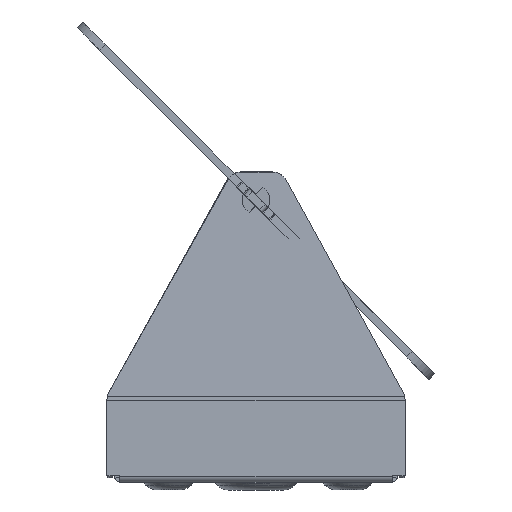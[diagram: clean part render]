
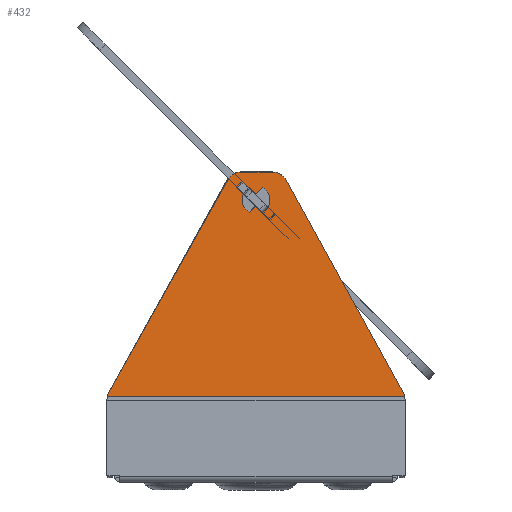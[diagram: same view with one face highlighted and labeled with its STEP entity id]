
A CAD part, left-side view. The second image highlights one B-rep face of the part: STEP entity #432.
In plain terms, the highlighted planar face has unit normal (-0.999, 0, 0.035).
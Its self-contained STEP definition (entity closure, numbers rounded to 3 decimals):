
#13 = CIRCLE ( 'NONE', #1061, 3.5 ) ;
#63 = CARTESIAN_POINT ( 'NONE',  ( 1.614, 34.25, 70.921 ) ) ;
#170 = CARTESIAN_POINT ( 'NONE',  ( 1.552, 33.896, 69.155 ) ) ;
#432 = ADVANCED_FACE ( 'NONE', ( #771, #4276 ), #1279, .F. ) ;
#446 = ORIENTED_EDGE ( 'NONE', *, *, #4341, .T. ) ;
#457 = CARTESIAN_POINT ( 'NONE',  ( 1.787, 41.395, 75.869 ) ) ;
#525 = EDGE_CURVE ( 'NONE', #3611, #5575, #3617, .T. ) ;
#563 = ORIENTED_EDGE ( 'NONE', *, *, #525, .T. ) ;
#564 = CARTESIAN_POINT ( 'NONE',  ( -0.808, 71.75, 1.564 ) ) ;
#565 = DIRECTION ( 'NONE',  ( -0.999, 0., 0.035 ) ) ;
#588 = DIRECTION ( 'NONE',  ( 0.03, -0.488, 0.873 ) ) ;
#656 = CARTESIAN_POINT ( 'NONE',  ( 1.676, 34.604, 72.688 ) ) ;
#771 = FACE_BOUND ( 'NONE', #1896, .T. ) ;
#774 = DIRECTION ( 'NONE',  ( -0.035, 0., -0.999 ) ) ;
#849 = DIRECTION ( 'NONE',  ( -0.999, 0., 0.035 ) ) ;
#891 = CARTESIAN_POINT ( 'NONE',  ( -0.11, 71.75, 21.551 ) ) ;
#913 = CIRCLE ( 'NONE', #930, 0.5 ) ;
#930 = AXIS2_PLACEMENT_3D ( 'NONE', #2140, #7038, #2857 ) ;
#1003 = EDGE_CURVE ( 'NONE', #8491, #7899, #1524, .T. ) ;
#1061 = AXIS2_PLACEMENT_3D ( 'NONE', #63, #4972, #774 ) ;
#1092 = CARTESIAN_POINT ( 'NONE',  ( -0.109, 71.75, 21.576 ) ) ;
#1149 = VERTEX_POINT ( 'NONE', #6423 ) ;
#1223 = CIRCLE ( 'NONE', #7684, 4. ) ;
#1263 = ORIENTED_EDGE ( 'NONE', *, *, #5884, .T. ) ;
#1279 = PLANE ( 'NONE',  #6003 ) ;
#1291 = DIRECTION ( 'NONE',  ( -0.035, 0., -0.999 ) ) ;
#1368 = DIRECTION ( 'NONE',  ( 0.999, 0., -0.035 ) ) ;
#1388 = DIRECTION ( 'NONE',  ( -0.025, 0.707, -0.707 ) ) ;
#1432 = EDGE_CURVE ( 'NONE', #5284, #6388, #4141, .T. ) ;
#1445 = AXIS2_PLACEMENT_3D ( 'NONE', #6977, #2802, #7697 ) ;
#1524 = CIRCLE ( 'NONE', #5187, 0.5 ) ;
#1543 = EDGE_CURVE ( 'NONE', #2870, #3090, #3477, .T. ) ;
#1654 = EDGE_CURVE ( 'NONE', #7899, #7659, #8220, .T. ) ;
#1794 = DIRECTION ( 'NONE',  ( -0.031, -0.482, -0.876 ) ) ;
#1842 = CIRCLE ( 'NONE', #6623, 4. ) ;
#1896 = EDGE_LOOP ( 'NONE', ( #5869, #6020, #2799, #3366, #5607, #2813, #7674, #563, #3799 ) ) ;
#1982 = DIRECTION ( 'NONE',  ( -0.999, 0., 0.035 ) ) ;
#2020 = DIRECTION ( 'NONE',  ( 0.025, -0.707, 0.707 ) ) ;
#2119 = EDGE_CURVE ( 'NONE', #7659, #5677, #4536, .T. ) ;
#2140 = CARTESIAN_POINT ( 'NONE',  ( 1.54, 34.25, 68.801 ) ) ;
#2151 = EDGE_CURVE ( 'NONE', #5677, #3375, #2459, .T. ) ;
#2158 = EDGE_CURVE ( 'NONE', #4329, #8491, #4083, .T. ) ;
#2225 = VECTOR ( 'NONE', #6972, 1000. ) ;
#2291 = VECTOR ( 'NONE', #6426, 1000. ) ;
#2459 = CIRCLE ( 'NONE', #5721, 3.5 ) ;
#2489 = ORIENTED_EDGE ( 'NONE', *, *, #4215, .T. ) ;
#2676 = VECTOR ( 'NONE', #2020, 1000. ) ;
#2798 = AXIS2_PLACEMENT_3D ( 'NONE', #4703, #1982, #6876 ) ;
#2799 = ORIENTED_EDGE ( 'NONE', *, *, #1654, .T. ) ;
#2802 = DIRECTION ( 'NONE',  ( -0.999, 0., 0.035 ) ) ;
#2813 = ORIENTED_EDGE ( 'NONE', *, *, #6119, .T. ) ;
#2857 = DIRECTION ( 'NONE',  ( 0.035, 0., 0.999 ) ) ;
#2870 = VERTEX_POINT ( 'NONE', #6713 ) ;
#2874 = LINE ( 'NONE', #1092, #6352 ) ;
#2917 = EDGE_LOOP ( 'NONE', ( #446, #6177, #7504, #4171, #2489, #7593, #1263, #9063 ) ) ;
#2957 = DIRECTION ( 'NONE',  ( -0.999, 0., 0.035 ) ) ;
#2991 = LINE ( 'NONE', #170, #8345 ) ;
#3026 = DIRECTION ( 'NONE',  ( -0.999, 0., 0.035 ) ) ;
#3048 = CARTESIAN_POINT ( 'NONE',  ( 1.721, 32.585, 73.998 ) ) ;
#3090 = VERTEX_POINT ( 'NONE', #457 ) ;
#3175 = DIRECTION ( 'NONE',  ( 0., -1., 0. ) ) ;
#3366 = ORIENTED_EDGE ( 'NONE', *, *, #2119, .T. ) ;
#3375 = VERTEX_POINT ( 'NONE', #8603 ) ;
#3392 = VECTOR ( 'NONE', #1388, 1000. ) ;
#3477 = LINE ( 'NONE', #891, #5126 ) ;
#3550 = CARTESIAN_POINT ( 'NONE',  ( 1.688, 34.25, 73.041 ) ) ;
#3611 = VERTEX_POINT ( 'NONE', #7999 ) ;
#3617 = LINE ( 'NONE', #7717, #3392 ) ;
#3799 = ORIENTED_EDGE ( 'NONE', *, *, #5420, .T. ) ;
#3878 = VERTEX_POINT ( 'NONE', #7567 ) ;
#3949 = CARTESIAN_POINT ( 'NONE',  ( 1.786, 26.61, 75.845 ) ) ;
#3962 = CARTESIAN_POINT ( 'NONE',  ( 1.676, 34.604, 72.688 ) ) ;
#3972 = CARTESIAN_POINT ( 'NONE',  ( 1.858, 37.902, 77.917 ) ) ;
#4000 = LINE ( 'NONE', #6690, #7528 ) ;
#4063 = DIRECTION ( 'NONE',  ( 0.999, 0., -0.035 ) ) ;
#4083 = LINE ( 'NONE', #656, #2225 ) ;
#4141 = LINE ( 'NONE', #7152, #2291 ) ;
#4171 = ORIENTED_EDGE ( 'NONE', *, *, #8426, .F. ) ;
#4215 = EDGE_CURVE ( 'NONE', #4653, #6388, #4593, .T. ) ;
#4276 = FACE_OUTER_BOUND ( 'NONE', #2917, .T. ) ;
#4329 = VERTEX_POINT ( 'NONE', #7786 ) ;
#4341 = EDGE_CURVE ( 'NONE', #2870, #3878, #1842, .T. ) ;
#4536 = LINE ( 'NONE', #6203, #2676 ) ;
#4593 = CIRCLE ( 'NONE', #1445, 4. ) ;
#4653 = VERTEX_POINT ( 'NONE', #3949 ) ;
#4703 = CARTESIAN_POINT ( 'NONE',  ( 1.688, 34.25, 73.041 ) ) ;
#4767 = CARTESIAN_POINT ( 'NONE',  ( 1.719, 37.902, 73.92 ) ) ;
#4835 = EDGE_CURVE ( 'NONE', #5459, #3611, #913, .T. ) ;
#4972 = DIRECTION ( 'NONE',  ( 0.999, 0., -0.035 ) ) ;
#5041 = CARTESIAN_POINT ( 'NONE',  ( -0.146, 0.75, 20.525 ) ) ;
#5072 = DIRECTION ( 'NONE',  ( 0.025, 0.707, 0.707 ) ) ;
#5126 = VECTOR ( 'NONE', #588, 1000. ) ;
#5187 = AXIS2_PLACEMENT_3D ( 'NONE', #3550, #3026, #1291 ) ;
#5284 = VERTEX_POINT ( 'NONE', #3972 ) ;
#5393 = CARTESIAN_POINT ( 'NONE',  ( 1.671, 34.25, 72.542 ) ) ;
#5420 = EDGE_CURVE ( 'NONE', #5575, #4329, #13, .T. ) ;
#5459 = VERTEX_POINT ( 'NONE', #7126 ) ;
#5462 = VERTEX_POINT ( 'NONE', #8528 ) ;
#5464 = DIRECTION ( 'NONE',  ( -0.035, 0., -0.999 ) ) ;
#5556 = CARTESIAN_POINT ( 'NONE',  ( 1.614, 34.25, 70.921 ) ) ;
#5575 = VERTEX_POINT ( 'NONE', #5686 ) ;
#5597 = EDGE_CURVE ( 'NONE', #5462, #1149, #6923, .T. ) ;
#5607 = ORIENTED_EDGE ( 'NONE', *, *, #2151, .T. ) ;
#5677 = VERTEX_POINT ( 'NONE', #3048 ) ;
#5686 = CARTESIAN_POINT ( 'NONE',  ( 1.507, 35.915, 67.844 ) ) ;
#5721 = AXIS2_PLACEMENT_3D ( 'NONE', #5556, #1368, #6265 ) ;
#5751 = DIRECTION ( 'NONE',  ( -0.035, 0., -0.999 ) ) ;
#5869 = ORIENTED_EDGE ( 'NONE', *, *, #2158, .T. ) ;
#5884 = EDGE_CURVE ( 'NONE', #5284, #3090, #1223, .T. ) ;
#6003 = AXIS2_PLACEMENT_3D ( 'NONE', #564, #4063, #7599 ) ;
#6020 = ORIENTED_EDGE ( 'NONE', *, *, #1003, .T. ) ;
#6106 = CARTESIAN_POINT ( 'NONE',  ( 1.858, 30.116, 77.917 ) ) ;
#6119 = EDGE_CURVE ( 'NONE', #3375, #5459, #2991, .T. ) ;
#6177 = ORIENTED_EDGE ( 'NONE', *, *, #6320, .T. ) ;
#6203 = CARTESIAN_POINT ( 'NONE',  ( 1.676, 33.896, 72.688 ) ) ;
#6265 = DIRECTION ( 'NONE',  ( 0.035, 0., 0.999 ) ) ;
#6320 = EDGE_CURVE ( 'NONE', #3878, #5462, #2874, .T. ) ;
#6352 = VECTOR ( 'NONE', #3175, 1000. ) ;
#6388 = VERTEX_POINT ( 'NONE', #6106 ) ;
#6423 = CARTESIAN_POINT ( 'NONE',  ( -0.079, -2.755, 22.451 ) ) ;
#6426 = DIRECTION ( 'NONE',  ( 0., -1., 0. ) ) ;
#6623 = AXIS2_PLACEMENT_3D ( 'NONE', #7148, #2957, #7851 ) ;
#6690 = CARTESIAN_POINT ( 'NONE',  ( 1.858, 27.75, 77.917 ) ) ;
#6713 = CARTESIAN_POINT ( 'NONE',  ( -0.078, 71.242, 22.46 ) ) ;
#6876 = DIRECTION ( 'NONE',  ( -0.035, 0., -0.999 ) ) ;
#6923 = CIRCLE ( 'NONE', #8329, 4. ) ;
#6972 = DIRECTION ( 'NONE',  ( -0.025, -0.707, -0.707 ) ) ;
#6977 = CARTESIAN_POINT ( 'NONE',  ( 1.719, 30.116, 73.92 ) ) ;
#7038 = DIRECTION ( 'NONE',  ( -0.999, 0., 0.035 ) ) ;
#7126 = CARTESIAN_POINT ( 'NONE',  ( 1.552, 33.896, 69.155 ) ) ;
#7148 = CARTESIAN_POINT ( 'NONE',  ( -0.146, 67.75, 20.511 ) ) ;
#7152 = CARTESIAN_POINT ( 'NONE',  ( 1.858, 40.25, 77.917 ) ) ;
#7504 = ORIENTED_EDGE ( 'NONE', *, *, #5597, .T. ) ;
#7528 = VECTOR ( 'NONE', #1794, 1000. ) ;
#7567 = CARTESIAN_POINT ( 'NONE',  ( -0.109, 71.605, 21.576 ) ) ;
#7593 = ORIENTED_EDGE ( 'NONE', *, *, #1432, .F. ) ;
#7599 = DIRECTION ( 'NONE',  ( -0.035, 0., -0.999 ) ) ;
#7659 = VERTEX_POINT ( 'NONE', #7954 ) ;
#7674 = ORIENTED_EDGE ( 'NONE', *, *, #4835, .T. ) ;
#7684 = AXIS2_PLACEMENT_3D ( 'NONE', #4767, #565, #5464 ) ;
#7697 = DIRECTION ( 'NONE',  ( -0.035, 0., -0.999 ) ) ;
#7717 = CARTESIAN_POINT ( 'NONE',  ( 1.552, 34.604, 69.155 ) ) ;
#7786 = CARTESIAN_POINT ( 'NONE',  ( 1.721, 35.915, 73.998 ) ) ;
#7851 = DIRECTION ( 'NONE',  ( -0.035, 0., -0.999 ) ) ;
#7899 = VERTEX_POINT ( 'NONE', #5393 ) ;
#7954 = CARTESIAN_POINT ( 'NONE',  ( 1.676, 33.896, 72.688 ) ) ;
#7999 = CARTESIAN_POINT ( 'NONE',  ( 1.552, 34.604, 69.155 ) ) ;
#8220 = CIRCLE ( 'NONE', #2798, 0.5 ) ;
#8329 = AXIS2_PLACEMENT_3D ( 'NONE', #5041, #849, #5751 ) ;
#8345 = VECTOR ( 'NONE', #5072, 1000. ) ;
#8426 = EDGE_CURVE ( 'NONE', #4653, #1149, #4000, .T. ) ;
#8491 = VERTEX_POINT ( 'NONE', #3962 ) ;
#8528 = CARTESIAN_POINT ( 'NONE',  ( -0.109, -3.109, 21.576 ) ) ;
#8603 = CARTESIAN_POINT ( 'NONE',  ( 1.507, 32.585, 67.844 ) ) ;
#9063 = ORIENTED_EDGE ( 'NONE', *, *, #1543, .F. ) ;
